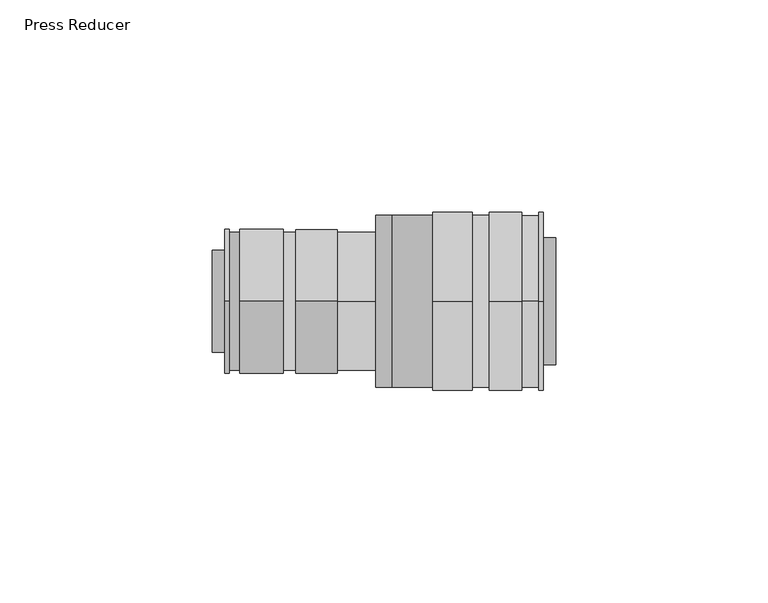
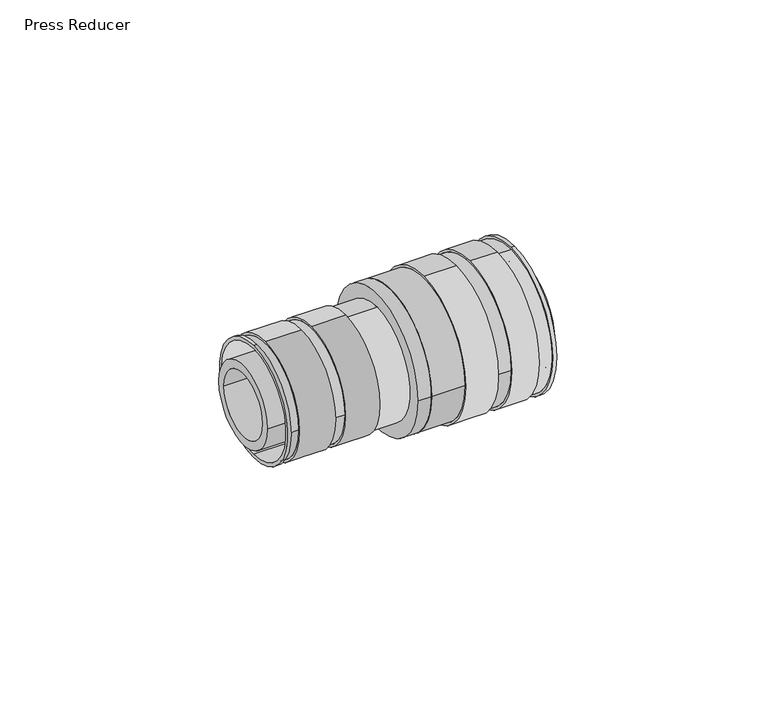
"""IFC4 building model written with IfcOpenShell, lengths in millimetres: pipe fitting geometry, Press Reducer : Superpipe Press Reducer."""

from ifc_helpers import new_model, si_unit, point, frame, frame_2d, origin, place, context, project, spatial, polyline, circle_curve, trimmed, segment, composite_curve, outline, extrude, source, transform, mapped, element, save
from ifc_brep_helpers import plane_surface, cylinder_surface, revolved_surface, advanced_brep


def press_reducer_bae177b8(model_context):
    return source(origin(), model_context, "Body", "SolidModel", [
        advanced_brep(
        [(3.0, 0.0, -17.0), (3.0, 0.0, 17.0), (3.0, 0.0, -16.0), (3.0, 0.0, 16.0), (38.5, 0.0, -16.3), (38.5, 0.0, 16.3), (38.5, 0.0, -16.0), (38.5, 0.0, 16.0), (4.0, 0.0, -17.0), (4.0, -17.0, 0.0), (4.0, 0.0, 17.0), (29.5, 0.0, -17.0), (29.5, 0.0, 17.0), (19.75, 0.0, 17.0), (19.75, -17.0, 0.0), (19.75, 0.0, -17.0), (16.75, 0.0, -17.0), (16.75, -17.0, 0.0), (16.75, 0.0, 17.0), (6.5, 0.0, 17.0), (6.5, -17.0, 0.0), (6.5, 0.0, -17.0), (4.0, 17.0, 0.0), (19.75, 17.0, 0.0), (16.75, 17.0, 0.0), (6.5, 17.0, 0.0), (29.5, 0.0, -16.3), (29.5, 0.0, 16.3), (16.75, 16.3, 0.0), (16.75, -16.3, 0.0), (19.75, 16.3, 0.0), (19.75, -16.3, 0.0), (6.5, -16.3, 0.0), (6.5, 16.3, 0.0), (4.0, -16.3, 0.0), (4.0, 16.3, 0.0)],
        [
            (0, 1, circle_curve(frame((3.0, 0.0, 0.0), z_axis=(-1.0, 0.0, 0.0), x_axis=(0.0, 0.0, 1.0)), 17.0)),
            (1, 0, circle_curve(frame((3.0, 0.0, 0.0), z_axis=(-1.0, 0.0, 0.0), x_axis=(0.0, 0.0, 1.0)), 17.0)),
            (2, 3, circle_curve(frame((3.0, 0.0, 0.0), z_axis=(1.0, 0.0, 0.0), x_axis=(0.0, 0.0, 1.0)), 16.0)),
            (3, 2, circle_curve(frame((3.0, 0.0, 0.0), z_axis=(1.0, 0.0, 0.0), x_axis=(0.0, 0.0, 1.0)), 16.0)),
            (4, 5, circle_curve(frame((38.5, 0.0, 0.0), z_axis=(1.0, 0.0, 0.0), x_axis=(0.0, 0.0, 1.0)), 16.3)),
            (5, 4, circle_curve(frame((38.5, 0.0, 0.0), z_axis=(1.0, 0.0, 0.0), x_axis=(0.0, 0.0, 1.0)), 16.3)),
            (6, 7, circle_curve(frame((38.5, 0.0, 0.0), z_axis=(-1.0, 0.0, 0.0), x_axis=(0.0, 0.0, 1.0)), 16.0)),
            (7, 6, circle_curve(frame((38.5, 0.0, 0.0), z_axis=(-1.0, 0.0, 0.0), x_axis=(0.0, 0.0, 1.0)), 16.0)),
            (0, 8),
            (8, 9, circle_curve(frame((4.0, 0.0, 0.0), z_axis=(-1.0, 0.0, 0.0), x_axis=(0.0, 0.0, 1.0)), 17.0)),
            (9, 10, circle_curve(frame((4.0, 0.0, 0.0), z_axis=(-1.0, 0.0, 0.0), x_axis=(0.0, 0.0, 1.0)), 17.0)),
            (10, 1),
            (11, 12, circle_curve(frame((29.5, 0.0, 0.0), z_axis=(-1.0, 0.0, 0.0), x_axis=(0.0, 0.0, 1.0)), 17.0)),
            (12, 13),
            (13, 14, circle_curve(frame((19.75, 0.0, 0.0), z_axis=(1.0, 0.0, 0.0), x_axis=(0.0, 0.0, 1.0)), 17.0)),
            (14, 15, circle_curve(frame((19.75, 0.0, 0.0), z_axis=(1.0, 0.0, 0.0), x_axis=(0.0, 0.0, 1.0)), 17.0)),
            (15, 11),
            (16, 17, circle_curve(frame((16.75, 0.0, 0.0), z_axis=(-1.0, 0.0, 0.0), x_axis=(0.0, 0.0, 1.0)), 17.0)),
            (17, 18, circle_curve(frame((16.75, 0.0, 0.0), z_axis=(-1.0, 0.0, 0.0), x_axis=(0.0, 0.0, 1.0)), 17.0)),
            (18, 19),
            (19, 20, circle_curve(frame((6.5, 0.0, 0.0), z_axis=(1.0, 0.0, 0.0), x_axis=(0.0, 0.0, 1.0)), 17.0)),
            (20, 21, circle_curve(frame((6.5, 0.0, 0.0), z_axis=(1.0, 0.0, 0.0), x_axis=(0.0, 0.0, 1.0)), 17.0)),
            (21, 16),
            (10, 22, circle_curve(frame((4.0, 0.0, 0.0), z_axis=(-1.0, 0.0, 0.0), x_axis=(0.0, 0.0, 1.0)), 17.0)),
            (22, 8, circle_curve(frame((4.0, 0.0, 0.0), z_axis=(-1.0, 0.0, 0.0), x_axis=(0.0, 0.0, 1.0)), 17.0)),
            (12, 11, circle_curve(frame((29.5, 0.0, 0.0), z_axis=(-1.0, 0.0, 0.0), x_axis=(0.0, 0.0, 1.0)), 17.0)),
            (15, 23, circle_curve(frame((19.75, 0.0, 0.0), z_axis=(1.0, 0.0, 0.0), x_axis=(0.0, 0.0, 1.0)), 17.0)),
            (23, 13, circle_curve(frame((19.75, 0.0, 0.0), z_axis=(1.0, 0.0, 0.0), x_axis=(0.0, 0.0, 1.0)), 17.0)),
            (24, 16, circle_curve(frame((16.75, 0.0, 0.0), z_axis=(-1.0, 0.0, 0.0), x_axis=(0.0, 0.0, 1.0)), 17.0)),
            (21, 25, circle_curve(frame((6.5, 0.0, 0.0), z_axis=(1.0, 0.0, 0.0), x_axis=(0.0, 0.0, 1.0)), 17.0)),
            (25, 19, circle_curve(frame((6.5, 0.0, 0.0), z_axis=(1.0, 0.0, 0.0), x_axis=(0.0, 0.0, 1.0)), 17.0)),
            (18, 24, circle_curve(frame((16.75, 0.0, 0.0), z_axis=(-1.0, 0.0, 0.0), x_axis=(0.0, 0.0, 1.0)), 17.0)),
            (2, 6),
            (7, 3),
            (26, 27, circle_curve(frame((29.5, 0.0, 0.0), z_axis=(-1.0, 0.0, 0.0), x_axis=(0.0, 0.0, 1.0)), 16.3)),
            (27, 26, circle_curve(frame((29.5, 0.0, 0.0), z_axis=(-1.0, 0.0, 0.0), x_axis=(0.0, 0.0, 1.0)), 16.3)),
            (27, 5),
            (4, 26),
            (28, 29, circle_curve(frame((16.75, 0.0, 0.0), z_axis=(-1.0, 0.0, 0.0), x_axis=(0.0, -1.0, 0.0)), 16.3)),
            (29, 28, circle_curve(frame((16.75, 0.0, 0.0), z_axis=(-1.0, 0.0, 0.0), x_axis=(0.0, -1.0, 0.0)), 16.3)),
            (30, 31, circle_curve(frame((19.75, 0.0, 0.0), z_axis=(1.0, 0.0, 0.0), x_axis=(0.0, -1.0, 0.0)), 16.3)),
            (31, 30, circle_curve(frame((19.75, 0.0, 0.0), z_axis=(1.0, 0.0, 0.0), x_axis=(0.0, -1.0, 0.0)), 16.3)),
            (29, 31),
            (30, 28),
            (32, 33, circle_curve(frame((6.5, 0.0, 0.0), z_axis=(1.0, 0.0, 0.0), x_axis=(0.0, 1.0, 0.0)), 16.3)),
            (33, 32, circle_curve(frame((6.5, 0.0, 0.0), z_axis=(1.0, 0.0, 0.0), x_axis=(0.0, 1.0, 0.0)), 16.3)),
            (34, 35, circle_curve(frame((4.0, 0.0, 0.0), z_axis=(-1.0, 0.0, 0.0), x_axis=(0.0, 1.0, 0.0)), 16.3)),
            (35, 34, circle_curve(frame((4.0, 0.0, 0.0), z_axis=(-1.0, 0.0, 0.0), x_axis=(0.0, 1.0, 0.0)), 16.3)),
            (33, 35),
            (34, 32),
        ],
        [
            plane_surface(frame((3.0, 0.0, 17.0), z_axis=(-1.0, 0.0, 0.0), x_axis=(0.0, 1.0, 0.0))),
            plane_surface(frame((38.5, 0.0, 17.0), z_axis=(1.0, 0.0, 0.0), x_axis=(0.0, -1.0, 0.0))),
            cylinder_surface(frame((38.5, 0.0, 0.0), z_axis=(-1.0, 0.0, 0.0), x_axis=(0.0, 0.0, 1.0)), 17.0),
            revolved_surface(polyline([(38.5, 0.0, 16.0), (3.0, 0.0, 16.0)]), (38.5, 0.0, 0.0), (1.0, 0.0, 0.0)),
            plane_surface(frame((29.5, 0.0, 17.0), z_axis=(1.0, 0.0, 0.0), x_axis=(0.0, 1.0, 0.0))),
            cylinder_surface(frame((38.5, 0.0, 0.0), z_axis=(1.0, 0.0, 0.0), x_axis=(0.0, 0.0, 1.0)), 16.3),
            plane_surface(frame((16.75, -17.0, 0.0), z_axis=(1.0, 0.0, 0.0), x_axis=(0.0, 0.0, 1.0))),
            plane_surface(frame((19.75, -17.0, 0.0), z_axis=(-1.0, 0.0, 0.0), x_axis=(0.0, 0.0, -1.0))),
            cylinder_surface(frame((19.75, 0.0, 0.0), z_axis=(1.0, 0.0, 0.0), x_axis=(0.0, -1.0, 0.0)), 16.3),
            plane_surface(frame((6.5, 17.0, 0.0), z_axis=(-1.0, 0.0, 0.0), x_axis=(0.0, 0.0, 1.0))),
            plane_surface(frame((4.0, 17.0, 0.0), z_axis=(1.0, 0.0, 0.0), x_axis=(0.0, 0.0, -1.0))),
            cylinder_surface(frame((3.0, 0.0, 0.0), z_axis=(-1.0, 0.0, 0.0), x_axis=(0.0, 1.0, 0.0)), 16.3),
        ],
        [
            (0, [[1, 2], [3, 4]]),
            (1, [[5, 6], [7, 8]]),
            (2, [[-1, 9, 10, 11, 12]]),
            (2, [[13, 14, 15, 16, 17]]),
            (2, [[18, 19, 20, 21, 22, 23]]),
            (2, [[-2, -12, 24, 25, -9]]),
            (2, [[26, -17, 27, 28, -14]]),
            (2, [[29, -23, 30, 31, -20, 32]]),
            (3, [[-3, 33, -8, 34]]),
            (3, [[-4, -34, -7, -33]]),
            (4, [[-13, -26], [35, 36]]),
            (5, [[-36, 37, -5, 38]]),
            (5, [[-35, -38, -6, -37]]),
            (6, [[-18, -29, -32, -19], [39, 40]]),
            (7, [[-16, -15, -28, -27], [41, 42]]),
            (8, [[-40, 43, -41, 44]]),
            (8, [[-39, -44, -42, -43]]),
            (9, [[-22, -21, -31, -30], [45, 46]]),
            (10, [[-10, -25, -24, -11], [47, 48]]),
            (11, [[-46, 49, -47, 50]]),
            (11, [[-45, -50, -48, -49]]),
        ],
    ),
        advanced_brep(
        [(78.0, 0.0, -21.0), (78.0, 0.0, 21.0), (78.0, 0.0, -20.0), (78.0, 0.0, 20.0), (42.5, -20.3, 0.0), (42.5, 20.3, 0.0), (42.5, 0.0, -20.0), (42.5, 0.0, 20.0), (77.0, 0.0, -21.0), (77.0, 0.0, 21.0), (52.0, 0.0, -21.0), (52.0, 21.0, 0.0), (52.0, 0.0, 21.0), (61.25, 0.0, 21.0), (61.25, 21.0, 0.0), (61.25, 0.0, -21.0), (73.0, 0.0, 21.0), (73.0, 0.0, -21.0), (65.25, 0.0, -21.0), (65.25, 21.0, 0.0), (65.25, 0.0, 21.0), (52.0, -21.0, 0.0), (61.25, -21.0, 0.0), (65.25, -21.0, 0.0), (52.0, -20.3, 0.0), (52.0, 20.3, 0.0), (73.0, 0.0, 20.3), (73.0, 0.0, -20.3), (77.0, 0.0, 20.3), (77.0, 0.0, -20.3), (61.25, 20.3, 0.0), (61.25, -20.3, 0.0), (65.25, 20.3, 0.0), (65.25, -20.3, 0.0)],
        [
            (0, 1, circle_curve(frame((78.0, 0.0, 0.0), z_axis=(1.0, 0.0, 0.0), x_axis=(0.0, 0.0, 1.0)), 21.0)),
            (1, 0, circle_curve(frame((78.0, 0.0, 0.0), z_axis=(1.0, 0.0, 0.0), x_axis=(0.0, 0.0, 1.0)), 21.0)),
            (2, 3, circle_curve(frame((78.0, 0.0, 0.0), z_axis=(-1.0, 0.0, 0.0), x_axis=(0.0, 0.0, 1.0)), 20.0)),
            (3, 2, circle_curve(frame((78.0, 0.0, 0.0), z_axis=(-1.0, 0.0, 0.0), x_axis=(0.0, 0.0, 1.0)), 20.0)),
            (4, 5, circle_curve(frame((42.5, 0.0, 0.0), z_axis=(-1.0, 0.0, 0.0), x_axis=(0.0, 1.0, 0.0)), 20.3)),
            (5, 4, circle_curve(frame((42.5, 0.0, 0.0), z_axis=(-1.0, 0.0, 0.0), x_axis=(0.0, 1.0, 0.0)), 20.3)),
            (6, 7, circle_curve(frame((42.5, 0.0, 0.0), z_axis=(1.0, 0.0, 0.0), x_axis=(0.0, 0.0, 1.0)), 20.0)),
            (7, 6, circle_curve(frame((42.5, 0.0, 0.0), z_axis=(1.0, 0.0, 0.0), x_axis=(0.0, 0.0, 1.0)), 20.0)),
            (0, 8),
            (8, 9, circle_curve(frame((77.0, 0.0, 0.0), z_axis=(1.0, 0.0, 0.0), x_axis=(0.0, 0.0, 1.0)), 21.0)),
            (9, 1),
            (10, 11, circle_curve(frame((52.0, 0.0, 0.0), z_axis=(1.0, 0.0, 0.0), x_axis=(0.0, 0.0, 1.0)), 21.0)),
            (11, 12, circle_curve(frame((52.0, 0.0, 0.0), z_axis=(1.0, 0.0, 0.0), x_axis=(0.0, 0.0, 1.0)), 21.0)),
            (12, 13),
            (13, 14, circle_curve(frame((61.25, 0.0, 0.0), z_axis=(-1.0, 0.0, 0.0), x_axis=(0.0, 0.0, 1.0)), 21.0)),
            (14, 15, circle_curve(frame((61.25, 0.0, 0.0), z_axis=(-1.0, 0.0, 0.0), x_axis=(0.0, 0.0, 1.0)), 21.0)),
            (15, 10),
            (16, 17, circle_curve(frame((73.0, 0.0, 0.0), z_axis=(-1.0, 0.0, 0.0), x_axis=(0.0, 0.0, 1.0)), 21.0)),
            (17, 18),
            (18, 19, circle_curve(frame((65.25, 0.0, 0.0), z_axis=(1.0, 0.0, 0.0), x_axis=(0.0, 0.0, 1.0)), 21.0)),
            (19, 20, circle_curve(frame((65.25, 0.0, 0.0), z_axis=(1.0, 0.0, 0.0), x_axis=(0.0, 0.0, 1.0)), 21.0)),
            (20, 16),
            (9, 8, circle_curve(frame((77.0, 0.0, 0.0), z_axis=(1.0, 0.0, 0.0), x_axis=(0.0, 0.0, 1.0)), 21.0)),
            (21, 10, circle_curve(frame((52.0, 0.0, 0.0), z_axis=(1.0, 0.0, 0.0), x_axis=(0.0, 0.0, 1.0)), 21.0)),
            (15, 22, circle_curve(frame((61.25, 0.0, 0.0), z_axis=(-1.0, 0.0, 0.0), x_axis=(0.0, 0.0, 1.0)), 21.0)),
            (22, 13, circle_curve(frame((61.25, 0.0, 0.0), z_axis=(-1.0, 0.0, 0.0), x_axis=(0.0, 0.0, 1.0)), 21.0)),
            (12, 21, circle_curve(frame((52.0, 0.0, 0.0), z_axis=(1.0, 0.0, 0.0), x_axis=(0.0, 0.0, 1.0)), 21.0)),
            (17, 16, circle_curve(frame((73.0, 0.0, 0.0), z_axis=(-1.0, 0.0, 0.0), x_axis=(0.0, 0.0, 1.0)), 21.0)),
            (20, 23, circle_curve(frame((65.25, 0.0, 0.0), z_axis=(1.0, 0.0, 0.0), x_axis=(0.0, 0.0, 1.0)), 21.0)),
            (23, 18, circle_curve(frame((65.25, 0.0, 0.0), z_axis=(1.0, 0.0, 0.0), x_axis=(0.0, 0.0, 1.0)), 21.0)),
            (2, 6),
            (7, 3),
            (24, 25, circle_curve(frame((52.0, 0.0, 0.0), z_axis=(1.0, 0.0, 0.0), x_axis=(0.0, 1.0, 0.0)), 20.3)),
            (25, 24, circle_curve(frame((52.0, 0.0, 0.0), z_axis=(1.0, 0.0, 0.0), x_axis=(0.0, 1.0, 0.0)), 20.3)),
            (25, 5),
            (4, 24),
            (26, 27, circle_curve(frame((73.0, 0.0, 0.0), z_axis=(-1.0, 0.0, 0.0), x_axis=(0.0, 0.0, -1.0)), 20.3)),
            (27, 26, circle_curve(frame((73.0, 0.0, 0.0), z_axis=(-1.0, 0.0, 0.0), x_axis=(0.0, 0.0, -1.0)), 20.3)),
            (28, 29, circle_curve(frame((77.0, 0.0, 0.0), z_axis=(1.0, 0.0, 0.0), x_axis=(0.0, 0.0, -1.0)), 20.3)),
            (29, 28, circle_curve(frame((77.0, 0.0, 0.0), z_axis=(1.0, 0.0, 0.0), x_axis=(0.0, 0.0, -1.0)), 20.3)),
            (27, 29),
            (28, 26),
            (30, 31, circle_curve(frame((61.25, 0.0, 0.0), z_axis=(-1.0, 0.0, 0.0), x_axis=(0.0, -1.0, 0.0)), 20.3)),
            (31, 30, circle_curve(frame((61.25, 0.0, 0.0), z_axis=(-1.0, 0.0, 0.0), x_axis=(0.0, -1.0, 0.0)), 20.3)),
            (32, 33, circle_curve(frame((65.25, 0.0, 0.0), z_axis=(1.0, 0.0, 0.0), x_axis=(0.0, -1.0, 0.0)), 20.3)),
            (33, 32, circle_curve(frame((65.25, 0.0, 0.0), z_axis=(1.0, 0.0, 0.0), x_axis=(0.0, -1.0, 0.0)), 20.3)),
            (31, 33),
            (32, 30),
        ],
        [
            plane_surface(frame((78.0, 0.0, 21.0), z_axis=(1.0, 0.0, 0.0), x_axis=(0.0, -1.0, 0.0))),
            plane_surface(frame((42.5, 0.0, 21.0), z_axis=(-1.0, 0.0, 0.0), x_axis=(0.0, 1.0, 0.0))),
            cylinder_surface(frame((42.5, 0.0, 0.0), z_axis=(1.0, 0.0, 0.0), x_axis=(0.0, 0.0, 1.0)), 21.0),
            revolved_surface(polyline([(42.5, 0.0, 20.0), (78.0, 0.0, 20.0)]), (42.5, 0.0, 0.0), (-1.0, 0.0, 0.0)),
            plane_surface(frame((52.0, 21.0, 0.0), z_axis=(-1.0, 0.0, 0.0), x_axis=(0.0, 0.0, 1.0))),
            cylinder_surface(frame((42.5, 0.0, 0.0), z_axis=(-1.0, 0.0, 0.0), x_axis=(0.0, 1.0, 0.0)), 20.3),
            plane_surface(frame((73.0, 0.0, -21.0), z_axis=(1.0, 0.0, 0.0), x_axis=(0.0, -1.0, 0.0))),
            plane_surface(frame((77.0, 0.0, -21.0), z_axis=(-1.0, 0.0, 0.0), x_axis=(0.0, 1.0, 0.0))),
            cylinder_surface(frame((78.0, 0.0, 0.0), z_axis=(1.0, 0.0, 0.0), x_axis=(0.0, 0.0, -1.0)), 20.3),
            plane_surface(frame((61.25, -21.0, 0.0), z_axis=(1.0, 0.0, 0.0), x_axis=(0.0, 0.0, 1.0))),
            plane_surface(frame((65.25, -21.0, 0.0), z_axis=(-1.0, 0.0, 0.0), x_axis=(0.0, 0.0, -1.0))),
            cylinder_surface(frame((61.25, 0.0, 0.0), z_axis=(1.0, 0.0, 0.0), x_axis=(0.0, -1.0, 0.0)), 20.3),
        ],
        [
            (0, [[1, 2], [3, 4]]),
            (1, [[5, 6], [7, 8]]),
            (2, [[-1, 9, 10, 11]]),
            (2, [[12, 13, 14, 15, 16, 17]]),
            (2, [[18, 19, 20, 21, 22]]),
            (2, [[-2, -11, 23, -9]]),
            (2, [[24, -17, 25, 26, -14, 27]]),
            (2, [[28, -22, 29, 30, -19]]),
            (3, [[-3, 31, -8, 32]]),
            (3, [[-4, -32, -7, -31]]),
            (4, [[-12, -24, -27, -13], [33, 34]]),
            (5, [[-34, 35, -5, 36]]),
            (5, [[-33, -36, -6, -35]]),
            (6, [[-18, -28], [37, 38]]),
            (7, [[-10, -23], [39, 40]]),
            (8, [[-38, 41, -39, 42]]),
            (8, [[-37, -42, -40, -41]]),
            (9, [[-16, -15, -26, -25], [43, 44]]),
            (10, [[-20, -30, -29, -21], [45, 46]]),
            (11, [[-44, 47, -45, 48]]),
            (11, [[-43, -48, -46, -47]]),
        ],
    ),
        extrude(outline(composite_curve([segment(trimmed(circle_curve(frame_2d((-0.000673, 0.0)), 15.0), [point((-15.000673, 0.0))], [point((14.999327, 0.0))], False, "CARTESIAN"), True, "CONTINUOUS"), segment(trimmed(circle_curve(frame_2d((-0.000673, 0.0)), 15.0), [point((14.999327, 0.0))], [point((-15.000673, 0.0))], False, "CARTESIAN"), True, "CONTINUOUS")], self_intersect=False), holes=[composite_curve([segment(trimmed(circle_curve(frame_2d((-0.000673, 0.0)), 13.0), [point((12.999327, 0.0))], [point((-13.000673, 0.0))], True, "CARTESIAN"), True, "CONTINUOUS"), segment(trimmed(circle_curve(frame_2d((-0.000673, 0.0)), 13.0), [point((-13.000673, 0.0))], [point((12.999327, 0.0))], True, "CARTESIAN"), True, "CONTINUOUS")], self_intersect=False)]), frame((42.5, 0.0, 0.0), z_axis=(1.0, 0.0, 0.0), x_axis=(0.0, 1.0, 0.0)), (0.0, 0.0, 1.0), 38.5),
        extrude(outline(composite_curve([segment(trimmed(circle_curve(frame_2d((-0.000673, 0.0)), 20.3), [point((-20.300673, 0.0))], [point((20.299327, 0.0))], False, "CARTESIAN"), True, "CONTINUOUS"), segment(trimmed(circle_curve(frame_2d((-0.000673, 0.0)), 20.3), [point((20.299327, 0.0))], [point((-20.300673, 0.0))], False, "CARTESIAN"), True, "CONTINUOUS")], self_intersect=False), holes=[composite_curve([segment(trimmed(circle_curve(frame_2d((-0.000673, 0.0)), 13.0), [point((12.999327, 0.0))], [point((-13.000673, 0.0))], True, "CARTESIAN"), True, "CONTINUOUS"), segment(trimmed(circle_curve(frame_2d((-0.000673, 0.0)), 13.0), [point((-13.000673, 0.0))], [point((12.999327, 0.0))], True, "CARTESIAN"), True, "CONTINUOUS")], self_intersect=False)]), frame((38.5, 0.0, 0.0), z_axis=(1.0, 0.0, 0.0), x_axis=(0.0, 1.0, 0.0)), (0.0, 0.0, 1.0), 4.0),
        extrude(outline(composite_curve([segment(trimmed(circle_curve(frame_2d((-0.000673, 0.0)), 12.0), [point((-12.000673, 0.0))], [point((11.999327, 0.0))], False, "CARTESIAN"), True, "CONTINUOUS"), segment(trimmed(circle_curve(frame_2d((-0.000673, 0.0)), 12.0), [point((11.999327, 0.0))], [point((-12.000673, 0.0))], False, "CARTESIAN"), True, "CONTINUOUS")], self_intersect=False), holes=[composite_curve([segment(trimmed(circle_curve(frame_2d((-0.000673, 0.0)), 9.5), [point((9.499327, 0.0))], [point((-9.500673, 0.0))], True, "CARTESIAN"), True, "CONTINUOUS"), segment(trimmed(circle_curve(frame_2d((-0.000673, 0.0)), 9.5), [point((-9.500673, 0.0))], [point((9.499327, 0.0))], True, "CARTESIAN"), True, "CONTINUOUS")], self_intersect=False)]), frame((0.0, 0.0, 0.0), z_axis=(1.0, 0.0, 0.0), x_axis=(0.0, 1.0, 0.0)), (0.0, 0.0, 1.0), 38.5),
    ])


if __name__ == "__main__":
    model = new_model("IFC4")
    model_context = context("Model", 3, world=origin())
    ifc_project = project(units=[si_unit("LENGTHUNIT", "METRE", prefix="MILLI")], contexts=[model_context])
    site = spatial("IfcSite", under=ifc_project)
    building = spatial("IfcBuilding", under=site)
    placement = place(None, origin())
    press_reducer_shape = press_reducer_bae177b8(model_context)
    element("IfcPipeFitting", 1, ObjectType="Press Reducer : Superpipe Press Reducer", at=placement, inside=building, context=model_context, shape_type="MappedRepresentation", body=[
        mapped(press_reducer_shape, transform((0.0, 0.0, 0.0), x_axis=(1.0, 0.0, 0.0), y_axis=(0.0, 1.0, 0.0), z_axis=(0.0, 0.0, 1.0))),
    ])
    save(model, "model.ifc")
